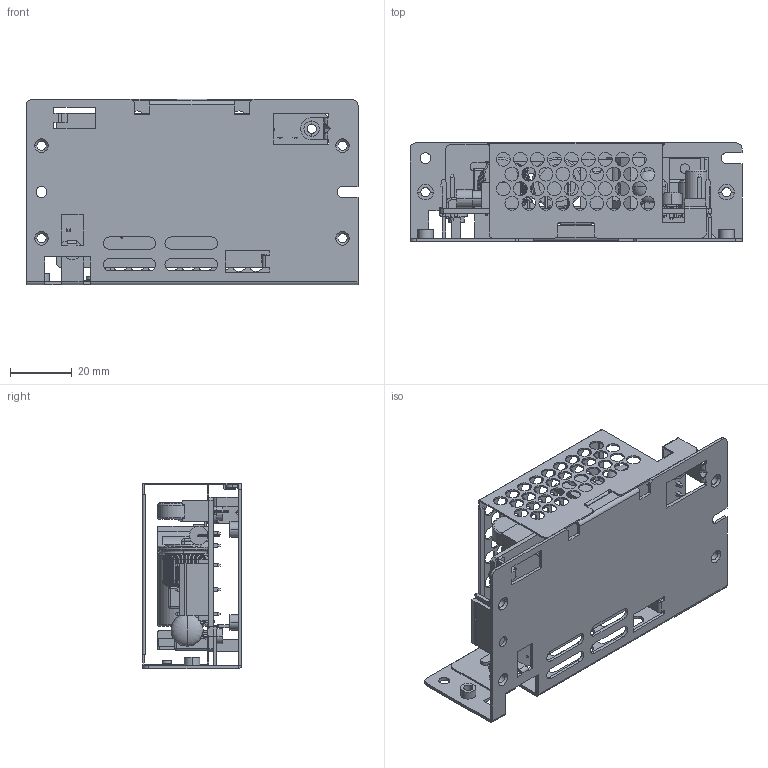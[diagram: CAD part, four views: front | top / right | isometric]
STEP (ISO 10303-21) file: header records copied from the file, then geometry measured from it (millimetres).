
FILE_DESCRIPTION((''),'2;1');
FILE_NAME('JAP_150W_ASM','2013-06-17T',('ERIC.YP.CHEN'),(''),'PRO/ENGINEER BY PARAMETRIC TECHNOLOGY CORPORATION, 2010280','PRO/ENGINEER BY PARAMETRIC TECHNOLOGY CORPORATION, 2010280','');
FILE_SCHEMA(('CONFIG_CONTROL_DESIGN'));
Products named in the file (22): 331609650101_CHASSIS; NEW_COVER; PCB; CON2_BODY; 2PIN_VH; VR1_; LEG1_; VR_LEG__ASM; HSK1; D101_1; Q1_1; C103; C1; CY1; F1_1; FL1; NTC_HOLDER2; NTC; NONE-118; NONE-1006; L101_ANY_ASM; JAP_150W_ASM
Assembly tree (25 placements, depth 3):
  JAP_150W_ASM
    331609650101_CHASSIS
    NEW_COVER
    PCB
    CON2_BODY
    2PIN_VH
    VR_LEG__ASM
      VR1_
      LEG1_  x3
    HSK1
    D101_1
    Q1_1
    C103
    C1
    CY1  x3
    F1_1
    FL1
    NTC_HOLDER2
    NTC
    L101_ANY_ASM
      NONE-118
      NONE-1006
Bounding box: 107.5 x 32 x 60 mm (x, y, z)
Volume: 37680.8 mm3; surface area: 51538.7 mm2
Topology: 31 solids, 38 shells, 2528 faces, 5736 edges, 3268 vertices
Faces by surface type: cylinder 1098, plane 770, torus 578, bspline 32, cone 18, revolution 18, sphere 14
Entity records: 89406 total; most frequent: CARTESIAN_POINT 35723, DIRECTION 11542, ORIENTED_EDGE 10744, EDGE_CURVE 5376, AXIS2_PLACEMENT_3D 4627, VERTEX_POINT 3080, EDGE_LOOP 2745, FACE_OUTER_BOUND 2368
